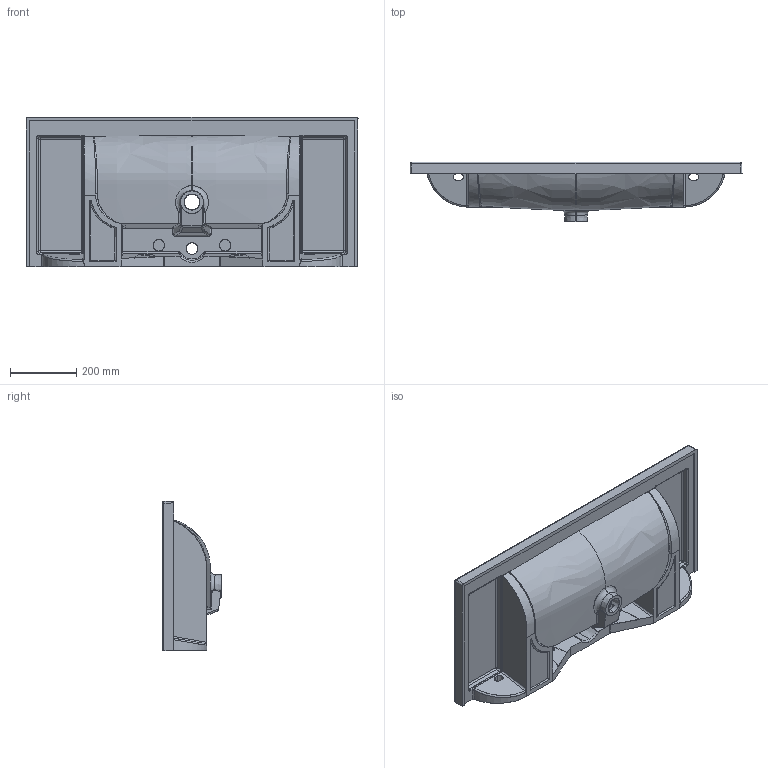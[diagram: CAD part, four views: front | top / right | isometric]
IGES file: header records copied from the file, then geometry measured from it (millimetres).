
Start section: SolidWorks IGES file using analytic representation for surfaces
Global section: file name: K:\lavabi tecla 3D IGS\a. MOOD (4)\MOOD45X100 MD03011.IGS; native system: SolidWorks 2013; preprocessor: SolidWorks 2013; author: UTENTE 1; date: 140521.163954; units: millimetre
Bounding box: 1001.22 x 180 x 450.61 mm (x, y, z)
Surface area: 1521711.8 mm2 (no closed solid volume)
Topology: 0 solids, 0 shells, 307 faces, 4323 edges, 4323 vertices
Faces by surface type: bspline 185, revolution 122
